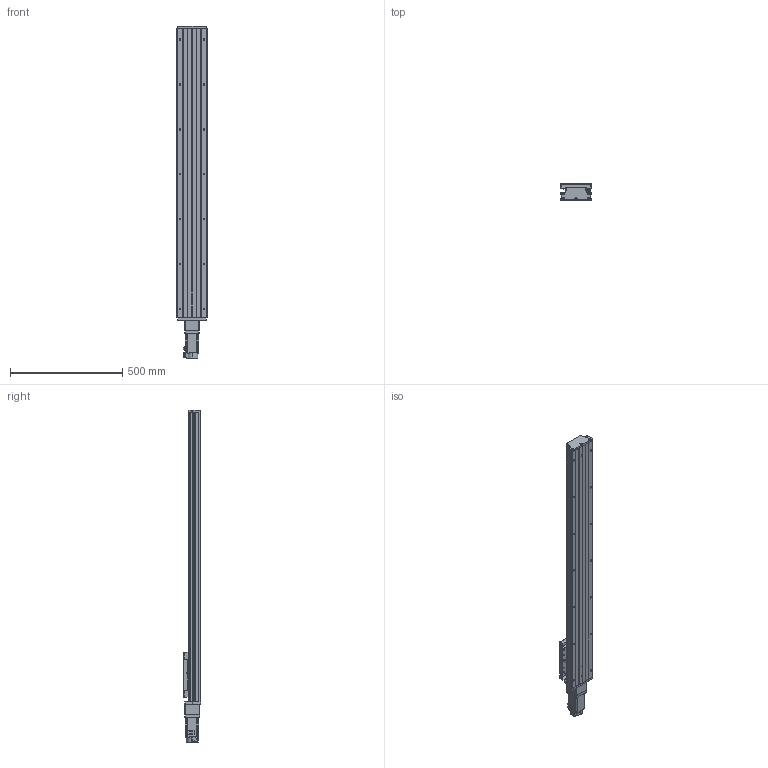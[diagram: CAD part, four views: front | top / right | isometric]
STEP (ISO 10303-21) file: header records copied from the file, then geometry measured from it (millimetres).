
FILE_DESCRIPTION (( 'STEP AP203' ), '1' );
FILE_NAME ('GTH14-1050-BC-M40-C4.step', '2023-06-30T08:32:01', ( '微软用户' ), ( '微软中国' ), 'SwSTEP 2.0', 'SolidWorks 2020', '' );
FILE_SCHEMA (( 'CONFIG_CONTROL_DESIGN' ));
Length unit declared in the file: millimetre
Products named in the file (20): GBT 70.2-M3¡Á5_M3¡Á6; す晦芛蹟隊 M3℅5; GTH14-001_1050; CTHA60-017; CTHA86-006-1_M40; GTH14-002_GTH14-002; EE_SX911P_R; CTHA86-013; GTH14-004; CTHA60-016; CTHA86-027-1; GTH14-005; GBT 70.1-M3℅5; HG-KN43J-S100; GB1155-6X6; GBT77-2000 M3×3; GBT 70.3-M3℅8; GBT70.1 M5℅16; GTH14-031; GTH14-1050-BC-M40-C4
Assembly tree (57 placements, depth 2):
  GTH14-1050-BC-M40-C4
    GTH14-001_1050
    GTH14-002_GTH14-002
    GTH14-004
    GTH14-005
    GB1155-6X6  x2
    GBT70.1 M5℅16  x10
    GBT 70.2-M3¡Á5_M3¡Á6  x8
    CTHA60-017  x3
    EE_SX911P_R  x3
    CTHA60-016  x2
    GBT 70.1-M3℅5  x6
    GBT77-2000 M3×3  x6
    GTH14-031
    す晦芛蹟隊 M3℅5  x6
    CTHA86-006-1_M40
    CTHA86-013
    CTHA86-027-1
    HG-KN43J-S100
    GBT 70.3-M3℅8  x2
Bounding box: 135 x 78 x 1478.7 mm (x, y, z)
Volume: 7290653.1 mm3; surface area: 1117503.7 mm2
Topology: 60 solids, 60 shells, 2434 faces, 5805 edges, 3586 vertices
Faces by surface type: plane 1306, cylinder 664, cone 304, torus 120, sphere 20, bspline 20
Entity records: 45036 total; most frequent: CARTESIAN_POINT 9997, DIRECTION 6636, ORIENTED_EDGE 6494, EDGE_CURVE 3247, AXIS2_PLACEMENT_3D 2269, LINE 2098, VECTOR 2098, VERTEX_POINT 2054
